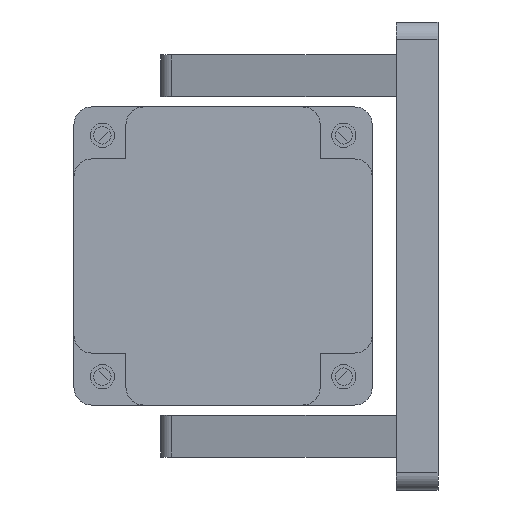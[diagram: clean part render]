
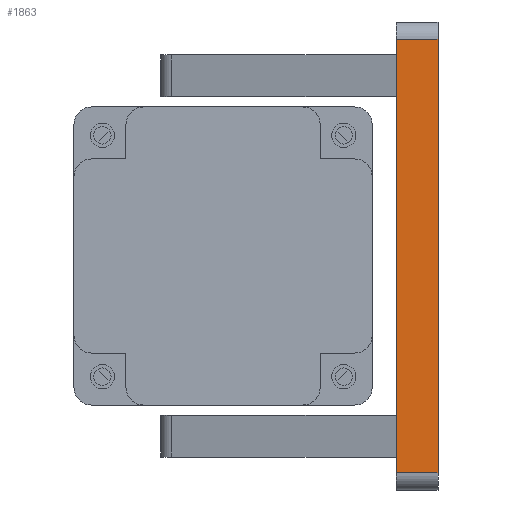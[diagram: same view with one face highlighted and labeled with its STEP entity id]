
A CAD part, left-side view. The second image highlights one B-rep face of the part: STEP entity #1863.
In plain terms, the highlighted planar face has unit normal (-1, 0, 0).
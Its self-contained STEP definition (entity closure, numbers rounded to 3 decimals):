
#344 = LINE ( 'NONE', #10668, #8388 ) ;
#574 = ORIENTED_EDGE ( 'NONE', *, *, #7862, .F. ) ;
#1427 = EDGE_CURVE ( 'NONE', #6216, #4460, #344, .T. ) ;
#1434 = ORIENTED_EDGE ( 'NONE', *, *, #1427, .T. ) ;
#1457 = CARTESIAN_POINT ( 'NONE',  ( -79.501, -31.155, 182.5 ) ) ;
#1664 = CARTESIAN_POINT ( 'NONE',  ( -79.501, -43.155, 182.5 ) ) ;
#1811 = VECTOR ( 'NONE', #4898, 1000. ) ;
#1863 = ADVANCED_FACE ( 'NONE', ( #12366 ), #10483, .F. ) ;
#2222 = CARTESIAN_POINT ( 'NONE',  ( -79.501, -43.155, 57.5 ) ) ;
#2532 = LINE ( 'NONE', #3092, #3203 ) ;
#3092 = CARTESIAN_POINT ( 'NONE',  ( -79.501, -43.155, 57.5 ) ) ;
#3203 = VECTOR ( 'NONE', #10479, 1000. ) ;
#3811 = CARTESIAN_POINT ( 'NONE',  ( -79.501, -31.155, 57.5 ) ) ;
#4123 = DIRECTION ( 'NONE',  ( 1., 0., 0. ) ) ;
#4460 = VERTEX_POINT ( 'NONE', #3811 ) ;
#4518 = EDGE_CURVE ( 'NONE', #11564, #6216, #12492, .T. ) ;
#4898 = DIRECTION ( 'NONE',  ( 0., 0., -1. ) ) ;
#5272 = CARTESIAN_POINT ( 'NONE',  ( -79.501, -43.155, 182.5 ) ) ;
#6006 = DIRECTION ( 'NONE',  ( 0., 1., 0. ) ) ;
#6063 = VECTOR ( 'NONE', #6006, 1000. ) ;
#6216 = VERTEX_POINT ( 'NONE', #1457 ) ;
#7862 = EDGE_CURVE ( 'NONE', #11696, #4460, #2532, .T. ) ;
#8110 = ORIENTED_EDGE ( 'NONE', *, *, #4518, .T. ) ;
#8388 = VECTOR ( 'NONE', #9795, 1000. ) ;
#9048 = EDGE_LOOP ( 'NONE', ( #1434, #574, #11223, #8110 ) ) ;
#9795 = DIRECTION ( 'NONE',  ( 0., 0., -1. ) ) ;
#10053 = LINE ( 'NONE', #11269, #1811 ) ;
#10479 = DIRECTION ( 'NONE',  ( 0., 1., 0. ) ) ;
#10483 = PLANE ( 'NONE',  #10919 ) ;
#10668 = CARTESIAN_POINT ( 'NONE',  ( -79.501, -31.155, 57.5 ) ) ;
#10919 = AXIS2_PLACEMENT_3D ( 'NONE', #13605, #4123, #11572 ) ;
#11223 = ORIENTED_EDGE ( 'NONE', *, *, #13175, .F. ) ;
#11269 = CARTESIAN_POINT ( 'NONE',  ( -79.501, -43.155, 57.5 ) ) ;
#11564 = VERTEX_POINT ( 'NONE', #5272 ) ;
#11572 = DIRECTION ( 'NONE',  ( 0., 1., 0. ) ) ;
#11696 = VERTEX_POINT ( 'NONE', #2222 ) ;
#12366 = FACE_OUTER_BOUND ( 'NONE', #9048, .T. ) ;
#12492 = LINE ( 'NONE', #1664, #6063 ) ;
#13175 = EDGE_CURVE ( 'NONE', #11564, #11696, #10053, .T. ) ;
#13605 = CARTESIAN_POINT ( 'NONE',  ( -79.501, -43.155, 57.5 ) ) ;
